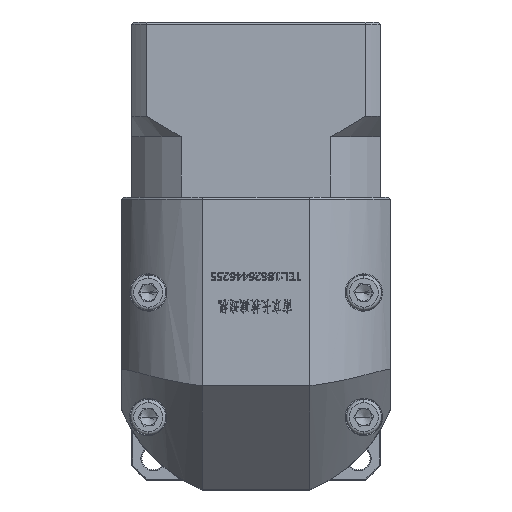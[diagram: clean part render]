
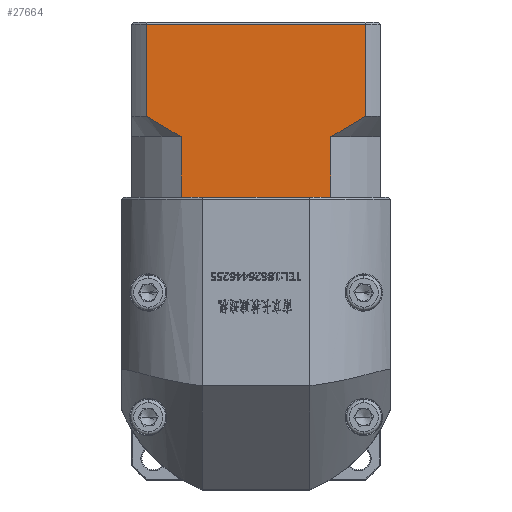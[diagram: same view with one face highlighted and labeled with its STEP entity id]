
A CAD part, top view. The second image highlights one B-rep face of the part: STEP entity #27664.
In plain terms, the highlighted planar face has unit normal (0, 0, 1).
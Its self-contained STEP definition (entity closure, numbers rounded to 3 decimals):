
#797 = CARTESIAN_POINT ( 'NONE',  ( -17.106, 64.725, 200.65 ) ) ;
#1426 = ORIENTED_EDGE ( 'NONE', *, *, #41549, .F. ) ;
#1612 = DIRECTION ( 'NONE',  ( 0., 0., -1. ) ) ;
#3680 = DIRECTION ( 'NONE',  ( -1., 0., 0. ) ) ;
#5655 = EDGE_CURVE ( 'NONE', #62736, #48294, #147891, .T. ) ;
#5728 = VERTEX_POINT ( 'NONE', #114808 ) ;
#9719 = CARTESIAN_POINT ( 'NONE',  ( -13.231, 48.673, 200.65 ) ) ;
#13110 = CARTESIAN_POINT ( 'NONE',  ( -14.222, 63.173, 200.65 ) ) ;
#19122 = LINE ( 'NONE', #106321, #84209 ) ;
#25612 = PLANE ( 'NONE',  #62132 ) ;
#25727 = CARTESIAN_POINT ( 'NONE',  ( -26.195, 48.673, 200.65 ) ) ;
#26359 = CARTESIAN_POINT ( 'NONE',  ( 30.263, 90.373, 200.65 ) ) ;
#26567 = LINE ( 'NONE', #150030, #59128 ) ;
#27664 = ADVANCED_FACE ( 'NONE', ( #91874 ), #25612, .F. ) ;
#30649 = EDGE_CURVE ( 'NONE', #5728, #62736, #94760, .T. ) ;
#30766 = ORIENTED_EDGE ( 'NONE', *, *, #40283, .F. ) ;
#32951 = VERTEX_POINT ( 'NONE', #76195 ) ;
#33076 = DIRECTION ( 'NONE',  ( 0., -1., 0. ) ) ;
#38027 = DIRECTION ( 'NONE',  ( 1., 0., 0. ) ) ;
#38075 = VECTOR ( 'NONE', #39422, 1000. ) ;
#39422 = DIRECTION ( 'NONE',  ( 0., -1., 0. ) ) ;
#40103 = VERTEX_POINT ( 'NONE', #95103 ) ;
#40283 = EDGE_CURVE ( 'NONE', #40103, #32951, #131775, .T. ) ;
#40510 = CARTESIAN_POINT ( 'NONE',  ( 24.715, 64.724, 200.65 ) ) ;
#41549 = EDGE_CURVE ( 'NONE', #75537, #137801, #89389, .T. ) ;
#42967 = ORIENTED_EDGE ( 'NONE', *, *, #124697, .F. ) ;
#45813 = VECTOR ( 'NONE', #90632, 1000. ) ;
#46173 = EDGE_CURVE ( 'NONE', #48294, #32951, #78328, .T. ) ;
#47055 = B_SPLINE_CURVE_WITH_KNOTS ( 'NONE', 3,
 ( #101434, #113722, #40510, #126020, #52741, #138292 ),
 .UNSPECIFIED., .F., .F.,
 ( 4, 2, 4 ),
 ( 0.1, 0.104, 0.109 ),
 .UNSPECIFIED. ) ;
#48274 = CARTESIAN_POINT ( 'NONE',  ( 30.263, 68.173, 200.65 ) ) ;
#48294 = VERTEX_POINT ( 'NONE', #117717 ) ;
#52741 = CARTESIAN_POINT ( 'NONE',  ( 28.9, 67.272, 200.65 ) ) ;
#53075 = CARTESIAN_POINT ( 'NONE',  ( -14.222, 63.173, 200.65 ) ) ;
#57017 = ORIENTED_EDGE ( 'NONE', *, *, #30649, .T. ) ;
#57413 = CARTESIAN_POINT ( 'NONE',  ( -14.222, 63.173, 200.65 ) ) ;
#58771 = ORIENTED_EDGE ( 'NONE', *, *, #5655, .T. ) ;
#59128 = VECTOR ( 'NONE', #3680, 1000. ) ;
#61689 = CARTESIAN_POINT ( 'NONE',  ( -22.652, 68.173, 200.65 ) ) ;
#62132 = AXIS2_PLACEMENT_3D ( 'NONE', #74786, #1612, #87140 ) ;
#62736 = VERTEX_POINT ( 'NONE', #9719 ) ;
#66005 = CARTESIAN_POINT ( 'NONE',  ( -26.195, 48.673, 200.65 ) ) ;
#67778 = VERTEX_POINT ( 'NONE', #53075 ) ;
#67887 = DIRECTION ( 'NONE',  ( 0., 1., 0. ) ) ;
#67901 = EDGE_LOOP ( 'NONE', ( #157435, #90678, #1426, #136596, #42967, #57017, #58771, #75290, #30766, #78370 ) ) ;
#68397 = CARTESIAN_POINT ( 'NONE',  ( -22.652, 63.173, 200.65 ) ) ;
#68858 = VECTOR ( 'NONE', #130640, 1000. ) ;
#73841 = VERTEX_POINT ( 'NONE', #48274 ) ;
#73943 = CARTESIAN_POINT ( 'NONE',  ( -19.914, 66.401, 200.65 ) ) ;
#74716 = EDGE_CURVE ( 'NONE', #40103, #73841, #47055, .T. ) ;
#74786 = CARTESIAN_POINT ( 'NONE',  ( -26.195, 90.873, 200.65 ) ) ;
#75290 = ORIENTED_EDGE ( 'NONE', *, *, #46173, .T. ) ;
#75537 = VERTEX_POINT ( 'NONE', #97896 ) ;
#76195 = CARTESIAN_POINT ( 'NONE',  ( 21.833, 48.673, 200.65 ) ) ;
#78328 = LINE ( 'NONE', #66005, #45813 ) ;
#78370 = ORIENTED_EDGE ( 'NONE', *, *, #74716, .T. ) ;
#82097 = EDGE_CURVE ( 'NONE', #75537, #67778, #127782, .T. ) ;
#84209 = VECTOR ( 'NONE', #33076, 1000. ) ;
#86331 = CARTESIAN_POINT ( 'NONE',  ( -15.674, 63.921, 200.65 ) ) ;
#87140 = DIRECTION ( 'NONE',  ( 0., 1., 0. ) ) ;
#89389 = LINE ( 'NONE', #68397, #139013 ) ;
#90632 = DIRECTION ( 'NONE',  ( 1., 0., 0. ) ) ;
#90678 = ORIENTED_EDGE ( 'NONE', *, *, #96194, .T. ) ;
#91874 = FACE_OUTER_BOUND ( 'NONE', #67901, .T. ) ;
#94760 = LINE ( 'NONE', #25727, #155835 ) ;
#95103 = CARTESIAN_POINT ( 'NONE',  ( 21.833, 63.173, 200.65 ) ) ;
#96194 = EDGE_CURVE ( 'NONE', #136315, #137801, #26567, .T. ) ;
#97896 = CARTESIAN_POINT ( 'NONE',  ( -22.652, 68.173, 200.65 ) ) ;
#101434 = CARTESIAN_POINT ( 'NONE',  ( 21.833, 63.173, 200.65 ) ) ;
#103211 = DIRECTION ( 'NONE',  ( 1., 0., 0. ) ) ;
#106321 = CARTESIAN_POINT ( 'NONE',  ( 30.263, 63.173, 200.65 ) ) ;
#113722 = CARTESIAN_POINT ( 'NONE',  ( 23.29, 63.924, 200.65 ) ) ;
#114808 = CARTESIAN_POINT ( 'NONE',  ( -14.222, 48.673, 200.65 ) ) ;
#116043 = CARTESIAN_POINT ( 'NONE',  ( -26.195, 48.673, 200.65 ) ) ;
#116072 = EDGE_CURVE ( 'NONE', #136315, #73841, #19122, .T. ) ;
#117717 = CARTESIAN_POINT ( 'NONE',  ( 20.842, 48.673, 200.65 ) ) ;
#124697 = EDGE_CURVE ( 'NONE', #5728, #67778, #145327, .T. ) ;
#124920 = CARTESIAN_POINT ( 'NONE',  ( 21.833, 63.173, 200.65 ) ) ;
#126020 = CARTESIAN_POINT ( 'NONE',  ( 27.52, 66.398, 200.65 ) ) ;
#127782 = B_SPLINE_CURVE_WITH_KNOTS ( 'NONE', 3,
 ( #61689, #147140, #73943, #797, #86331, #13110 ),
 .UNSPECIFIED., .F., .F.,
 ( 4, 2, 4 ),
 ( 0.052, 0.057, 0.062 ),
 .UNSPECIFIED. ) ;
#130640 = DIRECTION ( 'NONE',  ( 0., 1., 0. ) ) ;
#131775 = LINE ( 'NONE', #124920, #38075 ) ;
#136315 = VERTEX_POINT ( 'NONE', #26359 ) ;
#136446 = VECTOR ( 'NONE', #103211, 1000. ) ;
#136596 = ORIENTED_EDGE ( 'NONE', *, *, #82097, .T. ) ;
#137801 = VERTEX_POINT ( 'NONE', #156546 ) ;
#138292 = CARTESIAN_POINT ( 'NONE',  ( 30.263, 68.173, 200.65 ) ) ;
#139013 = VECTOR ( 'NONE', #67887, 1000. ) ;
#145327 = LINE ( 'NONE', #57413, #68858 ) ;
#147140 = CARTESIAN_POINT ( 'NONE',  ( -21.292, 67.274, 200.65 ) ) ;
#147891 = LINE ( 'NONE', #116043, #136446 ) ;
#150030 = CARTESIAN_POINT ( 'NONE',  ( -26.195, 90.373, 200.65 ) ) ;
#155835 = VECTOR ( 'NONE', #38027, 1000. ) ;
#156546 = CARTESIAN_POINT ( 'NONE',  ( -22.652, 90.373, 200.65 ) ) ;
#157435 = ORIENTED_EDGE ( 'NONE', *, *, #116072, .F. ) ;
